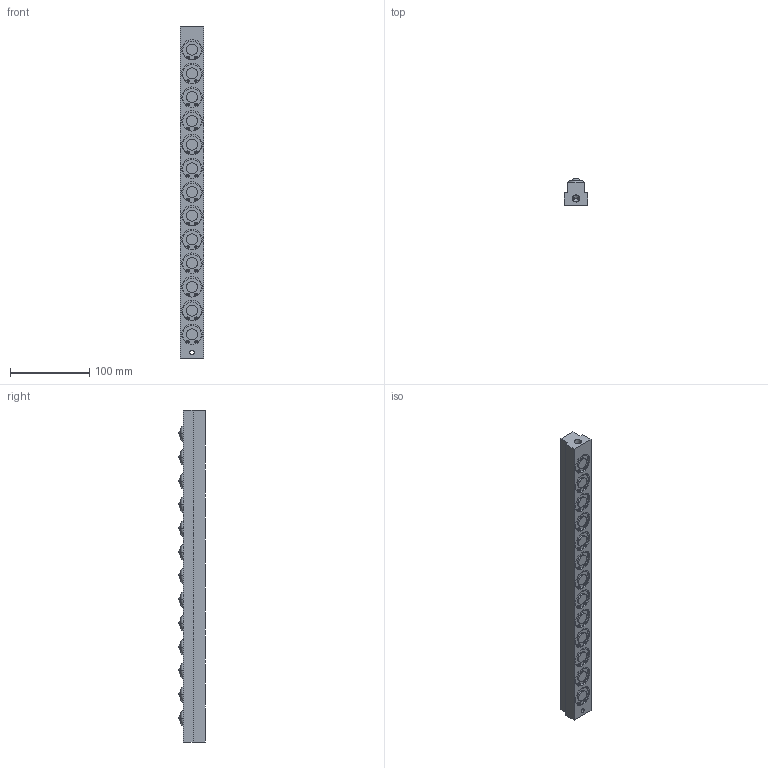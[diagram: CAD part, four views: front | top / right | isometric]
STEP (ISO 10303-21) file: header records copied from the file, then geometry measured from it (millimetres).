
FILE_DESCRIPTION (( 'STEP AP203' ), '1' );
FILE_NAME ('PVL20T-13.STEP', '2015-12-24T07:27:06', ( '' ), ( '' ), 'SwSTEP 2.0', 'SolidWorks 2013', '' );
FILE_SCHEMA (( 'CONFIG_CONTROL_DESIGN' ));
Length unit declared in the file: millimetre
Products named in the file (1): PVL20T-13
Bounding box: 30 x 34 x 420 mm (x, y, z)
Volume: 308656.9 mm3; surface area: 56420.6 mm2
Topology: 1 solids, 1 shells, 386 faces, 923 edges, 618 vertices
Faces by surface type: cylinder 214, plane 116, torus 26, sphere 26, cone 4
Entity records: 11610 total; most frequent: DIRECTION 2283, CARTESIAN_POINT 1926, ORIENTED_EDGE 1842, AXIS2_PLACEMENT_3D 975, EDGE_CURVE 921, VERTEX_POINT 618, CIRCLE 588, EDGE_LOOP 469
